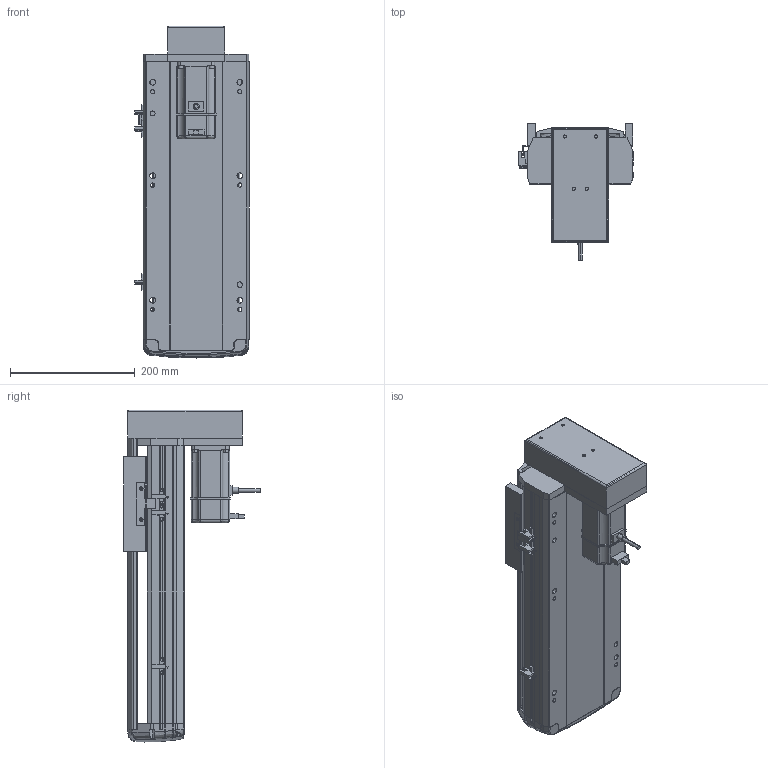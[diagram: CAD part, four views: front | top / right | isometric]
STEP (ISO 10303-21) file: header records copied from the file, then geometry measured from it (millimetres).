
FILE_DESCRIPTION (( 'STEP AP214' ), '1' );
FILE_NAME ('RTH17-XX-250-M-M40-C4.STEP', '2025-10-24T09:02:56', ( '' ), ( '' ), 'SwSTEP 2.0', 'SolidWorks 2018', '' );
FILE_SCHEMA (( 'AUTOMOTIVE_DESIGN' ));
Length unit declared in the file: millimetre
Products named in the file (10): N_RTH-BL-012 感应片(外置)^RTH17-XX-XX-M-M40-C4（方程式）; N_M40^RTH17-XX-XX-M-M40-C4（方程式）; N_RTH17-M-007上盖^RTH17-XX-XX-M-M40-C4（方程式）; N_RTH17-M-008-P40电机安装板下折^RTH17-XX-XX-M-M40-C4（方程式）; RTH17-XX-250-M-M40-C4; N_OMRON EE-SX672 換覜ん^RTH17-XX-XX-M-M40-C4ㄗ源最宒ㄘ; N_RTH17-M-011底座^RTH17-XX-XX-M-M40-C4（方程式）; N_RTH17-M-018盖子^RTH17-XX-XX-M-M40-C4（方程式）; N_RTH17-GY-001P^RTH17-XX-XX-M-M40-C4（方程式）; N_RTH17-E-004丝杆螺母连接座^RTH17-XX-XX-M-M40-C4（方程式）
Assembly tree (11 placements, depth 2):
  RTH17-XX-250-M-M40-C4
    N_RTH17-M-011底座^RTH17-XX-XX-M-M40-C4（方程式）
    N_RTH17-M-007上盖^RTH17-XX-XX-M-M40-C4（方程式）
    N_M40^RTH17-XX-XX-M-M40-C4（方程式）
    N_OMRON EE-SX672 換覜ん^RTH17-XX-XX-M-M40-C4ㄗ源最宒ㄘ  x3
    N_RTH-BL-012 感应片(外置)^RTH17-XX-XX-M-M40-C4（方程式）
    N_RTH17-M-008-P40电机安装板下折^RTH17-XX-XX-M-M40-C4（方程式）
    N_RTH17-M-018盖子^RTH17-XX-XX-M-M40-C4（方程式）
    N_RTH17-E-004丝杆螺母连接座^RTH17-XX-XX-M-M40-C4（方程式）
    N_RTH17-GY-001P^RTH17-XX-XX-M-M40-C4（方程式）
Bounding box: 183.5 x 219 x 533.27 mm (x, y, z)
Volume: 4685659 mm3; surface area: 741901.9 mm2
Topology: 10 solids, 12 shells, 1615 faces, 4482 edges, 2920 vertices
Faces by surface type: plane 826, cylinder 422, bspline 330, cone 28, torus 9
Entity records: 46500 total; most frequent: CARTESIAN_POINT 18898, ORIENTED_EDGE 5988, DIRECTION 4930, EDGE_CURVE 2998, VERTEX_POINT 1956, LINE 1720, VECTOR 1720, AXIS2_PLACEMENT_3D 1605
